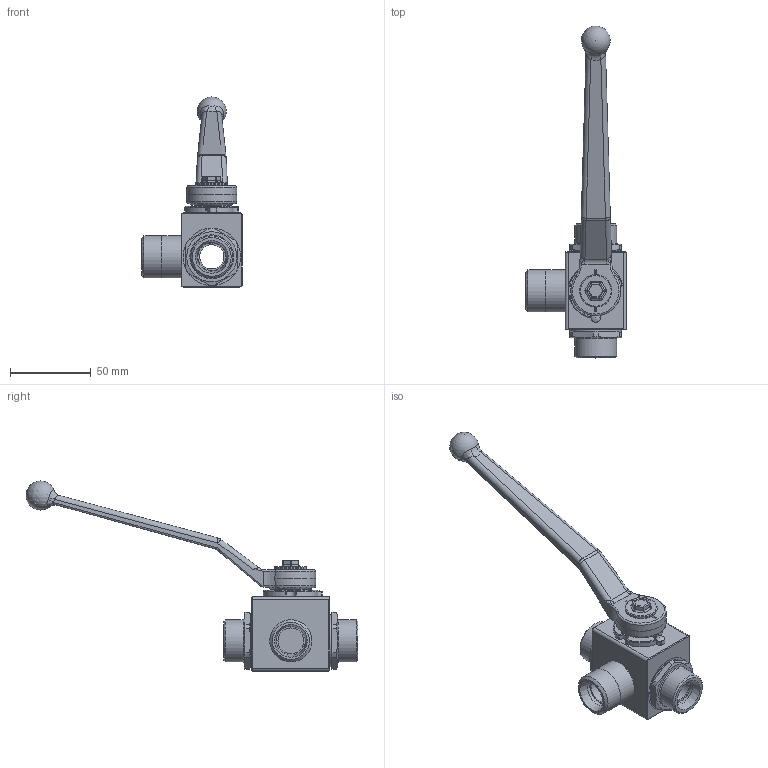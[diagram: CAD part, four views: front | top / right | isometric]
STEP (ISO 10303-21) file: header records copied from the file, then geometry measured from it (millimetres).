
FILE_DESCRIPTION( ( 'Unknown' ), '1' );
FILE_NAME( 'H:/PISTER/3D-MODELLE/BK3 stp/BK3 DN16 18L.stp', 'Unknown', ( 'Unknown' ), ( 'Unknown' ), 'PSStep 14.0', 'Unknown', ' ' );
FILE_SCHEMA( ( 'AUTOMOTIVE_DESIGN { 1 0 10303 214 1 1 1 1 }' ) );
Length unit declared in the file: millimetre
Products named in the file (11): Assem1; 10-016-001; 56-032-078-oa5; 09-12-001; 58-28740-05-oa6; Griff_SW12; 58-0933-147; 04-016-055-oa7; 06-016-003-oa10; 04-016-032-oa11; 01-016-011-oa12
Assembly tree (10 placements, depth 2):
  Assem1
    10-016-001
    56-032-078-oa5
    09-12-001
    58-28740-05-oa6
    Griff_SW12
    58-0933-147
    04-016-055-oa7
    06-016-003-oa10
    04-016-032-oa11
    01-016-011-oa12
Bounding box: 62.5 x 205.43 x 117.7 mm (x, y, z)
Volume: 62584.8 mm3; surface area: 43877.6 mm2
Topology: 10 solids, 10 shells, 388 faces, 959 edges, 581 vertices
Faces by surface type: plane 137, cylinder 133, torus 44, cone 32, bspline 25, sphere 17
Full cylindrical faces by diameter (mm): 4.917 x1, 5.98 x1, 6 x1, 6.5 x1, 15 x2, 16 x1, 18 x5, 18.2 x1, 20 x1, 21.8 x1, 26 x4, 26.1 x1, 32 x2, 35.5 x2
Entity records: 15653 total; most frequent: CARTESIAN_POINT 3679, DIRECTION 1879, ORIENTED_EDGE 1718, EDGE_CURVE 859, AXIS2_PLACEMENT_3D 768, VERTEX_POINT 559, EDGE_LOOP 474, FACE_OUTER_BOUND 425
